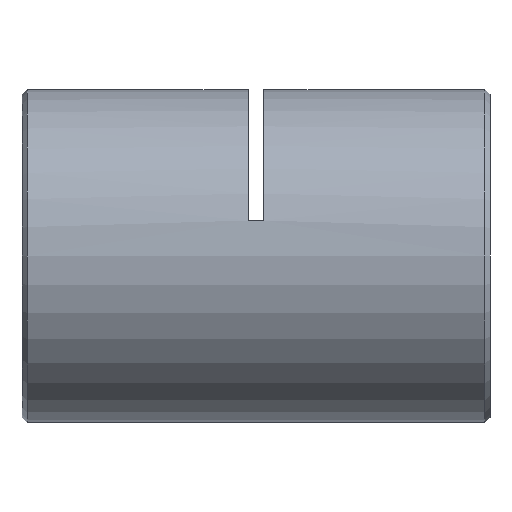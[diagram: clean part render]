
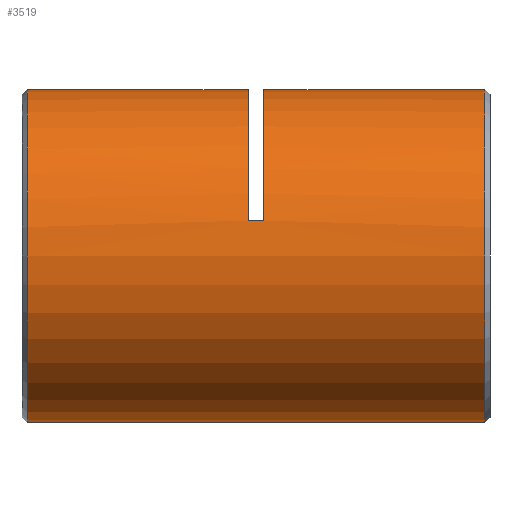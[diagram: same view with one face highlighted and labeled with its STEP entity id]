
A CAD part, left-side view. The second image highlights one B-rep face of the part: STEP entity #3519.
In plain terms, the highlighted cylindrical face has radius 16 mm (diameter 32 mm), a partial arc.
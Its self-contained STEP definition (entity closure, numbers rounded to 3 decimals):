
#20 = EDGE_CURVE ( 'NONE', #3989, #5257, #5977, .T. ) ;
#302 = VECTOR ( 'NONE', #6069, 1000. ) ;
#361 = EDGE_LOOP ( 'NONE', ( #3567, #2034, #3252, #963, #6238, #5623, #5870, #2427 ) ) ;
#382 = CARTESIAN_POINT ( 'NONE',  ( 0., 22., 0. ) ) ;
#401 = VECTOR ( 'NONE', #3426, 1000. ) ;
#514 = CARTESIAN_POINT ( 'NONE',  ( 0., 23.5, 16. ) ) ;
#550 = EDGE_CURVE ( 'NONE', #5257, #4886, #6034, .T. ) ;
#713 = AXIS2_PLACEMENT_3D ( 'NONE', #3720, #1852, #5687 ) ;
#934 = DIRECTION ( 'NONE',  ( 0., 1., 0. ) ) ;
#963 = ORIENTED_EDGE ( 'NONE', *, *, #5487, .F. ) ;
#1012 = VECTOR ( 'NONE', #5058, 1000. ) ;
#1464 = LINE ( 'NONE', #3812, #401 ) ;
#1547 = DIRECTION ( 'NONE',  ( 0., 0., 1. ) ) ;
#1566 = VERTEX_POINT ( 'NONE', #514 ) ;
#1852 = DIRECTION ( 'NONE',  ( 0., 1., 0. ) ) ;
#1899 = DIRECTION ( 'NONE',  ( 0., 1., 0. ) ) ;
#1915 = CARTESIAN_POINT ( 'NONE',  ( 0., 0.75, -16. ) ) ;
#1999 = CARTESIAN_POINT ( 'NONE',  ( -15.632, 22.75, 3.413 ) ) ;
#2005 = FACE_OUTER_BOUND ( 'NONE', #361, .T. ) ;
#2013 = VERTEX_POINT ( 'NONE', #2322 ) ;
#2034 = ORIENTED_EDGE ( 'NONE', *, *, #20, .T. ) ;
#2052 = CARTESIAN_POINT ( 'NONE',  ( 0., 0.75, 16. ) ) ;
#2098 = DIRECTION ( 'NONE',  ( 0., -1., 0. ) ) ;
#2138 = CARTESIAN_POINT ( 'NONE',  ( 0., 0., -16. ) ) ;
#2177 = AXIS2_PLACEMENT_3D ( 'NONE', #2727, #2821, #4756 ) ;
#2197 = CARTESIAN_POINT ( 'NONE',  ( 0., 44.75, 0. ) ) ;
#2269 = VECTOR ( 'NONE', #1899, 1000. ) ;
#2322 = CARTESIAN_POINT ( 'NONE',  ( 0., 44.75, 16. ) ) ;
#2379 = AXIS2_PLACEMENT_3D ( 'NONE', #2197, #2098, #4143 ) ;
#2427 = ORIENTED_EDGE ( 'NONE', *, *, #2990, .T. ) ;
#2479 = CARTESIAN_POINT ( 'NONE',  ( 0., 44.75, -16. ) ) ;
#2696 = EDGE_CURVE ( 'NONE', #3989, #6062, #6160, .T. ) ;
#2727 = CARTESIAN_POINT ( 'NONE',  ( 0., 23.5, 0. ) ) ;
#2821 = DIRECTION ( 'NONE',  ( 0., 1., 0. ) ) ;
#2832 = DIRECTION ( 'NONE',  ( 0., 0., 1. ) ) ;
#2878 = AXIS2_PLACEMENT_3D ( 'NONE', #382, #3795, #2832 ) ;
#2990 = EDGE_CURVE ( 'NONE', #2013, #6062, #3610, .T. ) ;
#3252 = ORIENTED_EDGE ( 'NONE', *, *, #550, .T. ) ;
#3426 = DIRECTION ( 'NONE',  ( 0., 1., 0. ) ) ;
#3519 = ADVANCED_FACE ( 'NONE', ( #2005 ), #5414, .T. ) ;
#3545 = CARTESIAN_POINT ( 'NONE',  ( 0., 0., 16. ) ) ;
#3567 = ORIENTED_EDGE ( 'NONE', *, *, #2696, .F. ) ;
#3610 = CIRCLE ( 'NONE', #2379, 16. ) ;
#3674 = AXIS2_PLACEMENT_3D ( 'NONE', #3963, #934, #1547 ) ;
#3720 = CARTESIAN_POINT ( 'NONE',  ( 0., 0.75, 0. ) ) ;
#3795 = DIRECTION ( 'NONE',  ( 0., 1., 0. ) ) ;
#3812 = CARTESIAN_POINT ( 'NONE',  ( 0., 0., 16. ) ) ;
#3963 = CARTESIAN_POINT ( 'NONE',  ( 0., 0., 0. ) ) ;
#3989 = VERTEX_POINT ( 'NONE', #1915 ) ;
#4143 = DIRECTION ( 'NONE',  ( 0., 0., -1. ) ) ;
#4722 = EDGE_CURVE ( 'NONE', #5953, #4775, #5376, .T. ) ;
#4756 = DIRECTION ( 'NONE',  ( 0., 0., 1. ) ) ;
#4775 = VERTEX_POINT ( 'NONE', #4892 ) ;
#4797 = CARTESIAN_POINT ( 'NONE',  ( -15.632, 22., 3.413 ) ) ;
#4851 = CARTESIAN_POINT ( 'NONE',  ( 0., 22., 16. ) ) ;
#4886 = VERTEX_POINT ( 'NONE', #4851 ) ;
#4892 = CARTESIAN_POINT ( 'NONE',  ( -15.632, 23.5, 3.413 ) ) ;
#5058 = DIRECTION ( 'NONE',  ( 0., 1., 0. ) ) ;
#5147 = CIRCLE ( 'NONE', #2177, 16. ) ;
#5233 = CIRCLE ( 'NONE', #2878, 16. ) ;
#5257 = VERTEX_POINT ( 'NONE', #2052 ) ;
#5376 = LINE ( 'NONE', #1999, #2269 ) ;
#5414 = CYLINDRICAL_SURFACE ( 'NONE', #3674, 16. ) ;
#5487 = EDGE_CURVE ( 'NONE', #5953, #4886, #5233, .T. ) ;
#5623 = ORIENTED_EDGE ( 'NONE', *, *, #5641, .T. ) ;
#5641 = EDGE_CURVE ( 'NONE', #4775, #1566, #5147, .T. ) ;
#5687 = DIRECTION ( 'NONE',  ( 0., 0., 1. ) ) ;
#5716 = EDGE_CURVE ( 'NONE', #1566, #2013, #1464, .T. ) ;
#5870 = ORIENTED_EDGE ( 'NONE', *, *, #5716, .T. ) ;
#5953 = VERTEX_POINT ( 'NONE', #4797 ) ;
#5977 = CIRCLE ( 'NONE', #713, 16. ) ;
#6034 = LINE ( 'NONE', #3545, #1012 ) ;
#6062 = VERTEX_POINT ( 'NONE', #2479 ) ;
#6069 = DIRECTION ( 'NONE',  ( 0., 1., 0. ) ) ;
#6160 = LINE ( 'NONE', #2138, #302 ) ;
#6238 = ORIENTED_EDGE ( 'NONE', *, *, #4722, .T. ) ;
